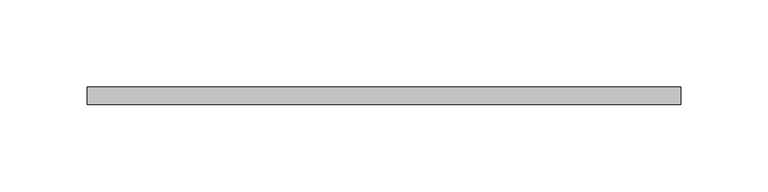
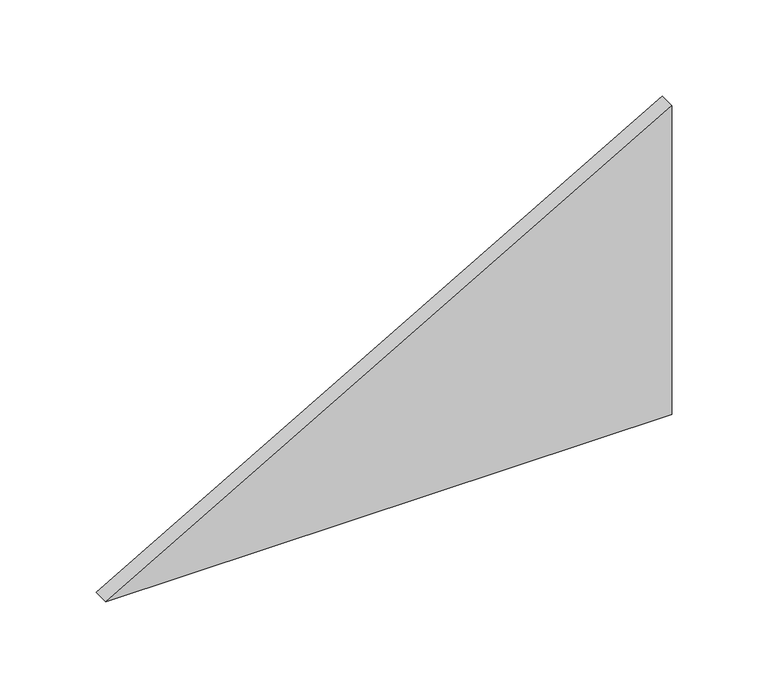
"""IFC4 building model written with IfcOpenShell, lengths in millimetres: plate geometry, 系統嵌板 : 玻璃 1.0cm."""

from ifc_helpers import new_model, si_unit, frame, origin, place, context, project, spatial, polyline, outline, extrude, source, transform, mapped, element, save


def plate_2800b3d3(model_context):
    return source(origin(), model_context, "Body", "SweptSolid", [
        extrude(outline(polyline([(0.0, -169.8729811), (0.0, 169.8729811), (196.1524227, 169.8729811), (0.0, -169.8729811)])), frame((0.0, -5.0, 0.0), z_axis=(0.0, 1.0, 0.0), x_axis=(0.0, 0.0, 1.0)), (0.0, 0.0, 1.0), 10.0),
    ])


if __name__ == "__main__":
    model = new_model("IFC4")
    model_context = context("Model", 3, world=origin())
    ifc_project = project(units=[si_unit("LENGTHUNIT", "METRE", prefix="MILLI")], contexts=[model_context])
    site = spatial("IfcSite", under=ifc_project)
    building = spatial("IfcBuilding", under=site)
    placement = place(None, origin())
    plate_shape = plate_2800b3d3(model_context)
    element("IfcPlate", 1, ObjectType="系統嵌板 : 玻璃 1.0cm", at=placement, inside=building, context=model_context, shape_type="MappedRepresentation", body=[
        mapped(plate_shape, transform((0.0, 0.0, 0.0), x_axis=(1.0, 0.0, 0.0), y_axis=(0.0, 1.0, 0.0), z_axis=(0.0, 0.0, 1.0))),
    ])
    save(model, "model.ifc")
